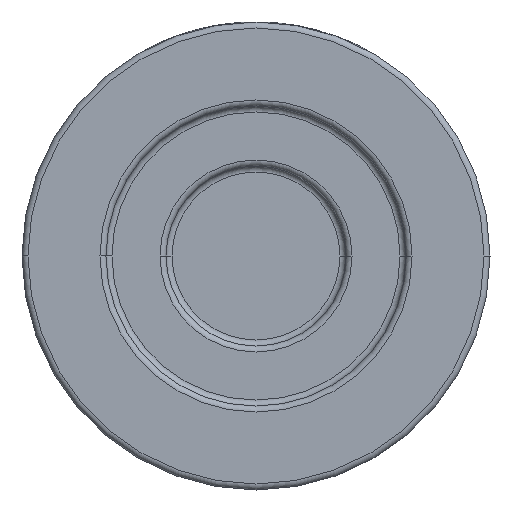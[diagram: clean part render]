
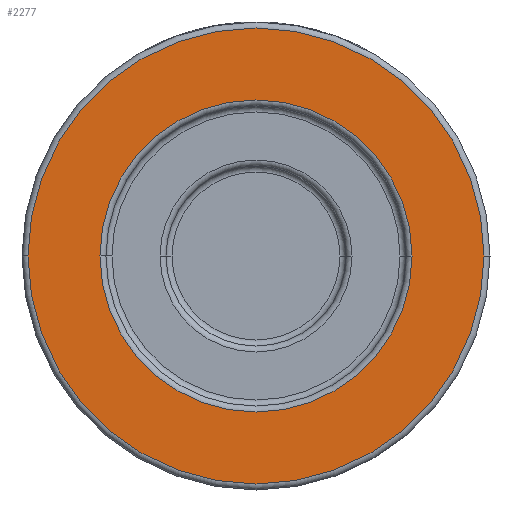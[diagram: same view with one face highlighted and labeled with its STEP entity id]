
A CAD part, front view. The second image highlights one B-rep face of the part: STEP entity #2277.
In plain terms, the highlighted planar face has unit normal (0, -1, 0).
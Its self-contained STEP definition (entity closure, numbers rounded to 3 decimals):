
#30 = DIRECTION ( 'NONE',  ( 1., 0., 0. ) ) ;
#37 = DIRECTION ( 'NONE',  ( 1., 0., 0. ) ) ;
#76 = FACE_OUTER_BOUND ( 'NONE', #2189, .T. ) ;
#99 = CARTESIAN_POINT ( 'NONE',  ( 0., -35., 0. ) ) ;
#124 = ORIENTED_EDGE ( 'NONE', *, *, #1492, .T. ) ;
#199 = AXIS2_PLACEMENT_3D ( 'NONE', #1790, #3916, #30 ) ;
#621 = VERTEX_POINT ( 'NONE', #2496 ) ;
#890 = CARTESIAN_POINT ( 'NONE',  ( 38., -35., 0. ) ) ;
#967 = AXIS2_PLACEMENT_3D ( 'NONE', #3312, #4397, #37 ) ;
#1175 = ORIENTED_EDGE ( 'NONE', *, *, #2650, .T. ) ;
#1206 = DIRECTION ( 'NONE',  ( 1., 0., 0. ) ) ;
#1243 = DIRECTION ( 'NONE',  ( 1., 0., 0. ) ) ;
#1353 = VERTEX_POINT ( 'NONE', #3963 ) ;
#1492 = EDGE_CURVE ( 'NONE', #4282, #621, #2626, .T. ) ;
#1511 = EDGE_CURVE ( 'NONE', #1353, #2908, #4599, .T. ) ;
#1604 = CARTESIAN_POINT ( 'NONE',  ( 0., -35., 0. ) ) ;
#1790 = CARTESIAN_POINT ( 'NONE',  ( 0., -35., 0. ) ) ;
#1864 = AXIS2_PLACEMENT_3D ( 'NONE', #99, #2218, #1206 ) ;
#1935 = PLANE ( 'NONE',  #4298 ) ;
#1986 = DIRECTION ( 'NONE',  ( 1., 0., 0. ) ) ;
#2032 = AXIS2_PLACEMENT_3D ( 'NONE', #1604, #2034, #1986 ) ;
#2034 = DIRECTION ( 'NONE',  ( 0., -1., 0. ) ) ;
#2160 = CARTESIAN_POINT ( 'NONE',  ( -26., -35., 0. ) ) ;
#2189 = EDGE_LOOP ( 'NONE', ( #2220, #3506 ) ) ;
#2218 = DIRECTION ( 'NONE',  ( 0., 1., 0. ) ) ;
#2220 = ORIENTED_EDGE ( 'NONE', *, *, #2447, .T. ) ;
#2277 = ADVANCED_FACE ( 'NONE', ( #3040, #76 ), #1935, .T. ) ;
#2331 = EDGE_LOOP ( 'NONE', ( #1175, #124 ) ) ;
#2447 = EDGE_CURVE ( 'NONE', #2908, #1353, #4003, .T. ) ;
#2496 = CARTESIAN_POINT ( 'NONE',  ( 26., -35., 0. ) ) ;
#2626 = CIRCLE ( 'NONE', #1864, 26. ) ;
#2650 = EDGE_CURVE ( 'NONE', #621, #4282, #3096, .T. ) ;
#2908 = VERTEX_POINT ( 'NONE', #890 ) ;
#3040 = FACE_BOUND ( 'NONE', #2331, .T. ) ;
#3096 = CIRCLE ( 'NONE', #199, 26. ) ;
#3312 = CARTESIAN_POINT ( 'NONE',  ( 0., -35., 0. ) ) ;
#3506 = ORIENTED_EDGE ( 'NONE', *, *, #1511, .T. ) ;
#3771 = DIRECTION ( 'NONE',  ( 0., -1., 0. ) ) ;
#3916 = DIRECTION ( 'NONE',  ( 0., 1., 0. ) ) ;
#3963 = CARTESIAN_POINT ( 'NONE',  ( -38., -35., 0. ) ) ;
#4003 = CIRCLE ( 'NONE', #967, 38. ) ;
#4282 = VERTEX_POINT ( 'NONE', #2160 ) ;
#4298 = AXIS2_PLACEMENT_3D ( 'NONE', #4486, #3771, #1243 ) ;
#4397 = DIRECTION ( 'NONE',  ( 0., -1., 0. ) ) ;
#4486 = CARTESIAN_POINT ( 'NONE',  ( 39., -35., 0. ) ) ;
#4599 = CIRCLE ( 'NONE', #2032, 38. ) ;
